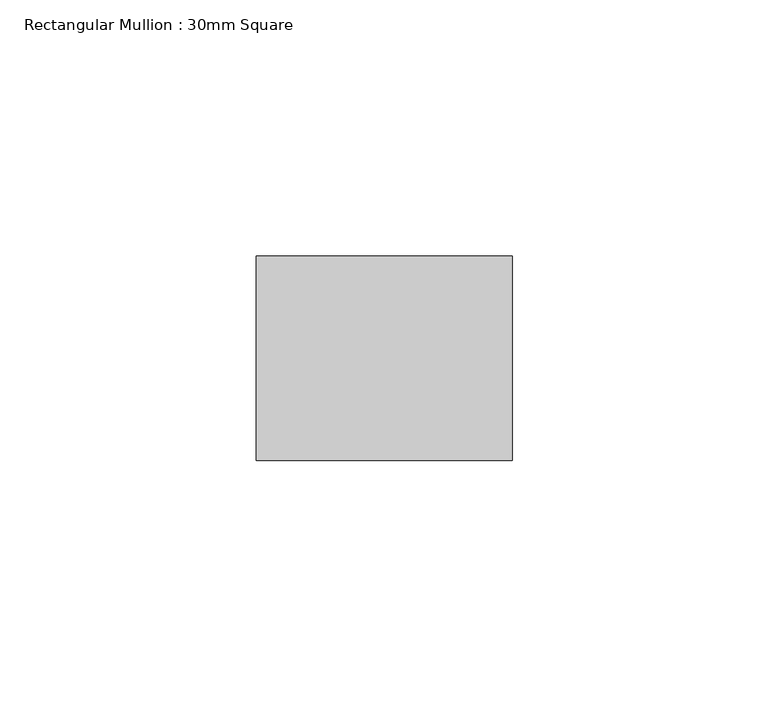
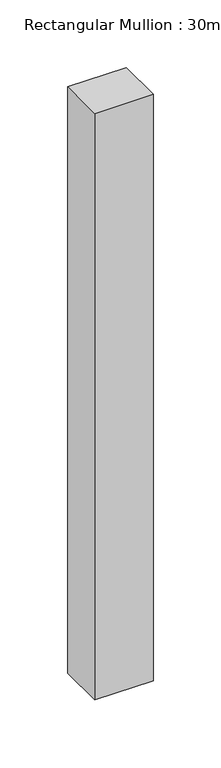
"""IFC4 building model written with IfcOpenShell, lengths in millimetres: member geometry, Rectangular Mullion : 30mm Square."""

import ifcopenshell
import ifcopenshell.guid

model = None  # the IFC model being written
_history = None  # IfcOwnerHistory: only IFC2X3 demands one
_inside = {}  # id of a spatial element -> (the spatial element, [elements in it])
_under = {}  # id of a project, library or spatial element -> (it, [spatial elements below it])
_declared = {}  # id of a project -> (the project, [libraries it declares])
_typed = {}  # id of a type object -> (the type object, [elements of that type])
_made_of = {}  # id of a material, layer set ... -> (it, [elements and type objects made of it])


def new_model(schema):
    """Start an empty IFC model of exactly this schema.

    Asked for "IFC4X3", IfcOpenShell would pick the latest addendum, in which some entities
    have other attributes; the version numbers below select the first issue.
    IFC2X3 requires an IfcOwnerHistory on every rooted entity: one is made here for all.
    """
    global model, _history
    if schema == "IFC4X3":
        model = ifcopenshell.file(schema_version=(4, 3, 0, 0))
    else:
        model = ifcopenshell.file(schema=schema)
    _inside.clear()
    _under.clear()
    _declared.clear()
    _typed.clear()
    _made_of.clear()
    _history = None
    if model.schema == "IFC2X3":
        org = make("IfcOrganization", Name="unknown")
        user = make(
            "IfcPersonAndOrganization",
            ThePerson=make("IfcPerson", FamilyName="unknown"),
            TheOrganization=org,
        )
        app = make(
            "IfcApplication",
            ApplicationDeveloper=org,
            Version="unknown",
            ApplicationFullName="unknown",
            ApplicationIdentifier="unknown",
        )
        _history = make(
            "IfcOwnerHistory",
            OwningUser=user,
            OwningApplication=app,
            ChangeAction="ADDED",
            CreationDate=0,
        )
    return model


def make(cls, **values):
    """One entity of the class cls with the attributes given. An attribute that is None is left unset."""
    return model.create_entity(
        cls, **{name: value for name, value in values.items() if value is not None}
    )


def rooted(cls, **values):
    """An entity with a GlobalId (a new one), such as an element, a storey or a relation."""
    return make(cls, GlobalId=ifcopenshell.guid.new(), OwnerHistory=_history, **values)


def si_unit(unit_type, name, prefix=None):
    """IfcSIUnit, for example si_unit("LENGTHUNIT", "METRE", prefix="MILLI")."""
    return make("IfcSIUnit", UnitType=unit_type, Prefix=prefix, Name=name)


def assignment(units):
    """IfcUnitAssignment: the units of a project."""
    return None if units is None else make("IfcUnitAssignment", Units=units)


def point(xyz):
    """IfcCartesianPoint."""
    return None if xyz is None else make("IfcCartesianPoint", Coordinates=xyz)


def direction(xyz):
    """IfcDirection."""
    return None if xyz is None else make("IfcDirection", DirectionRatios=xyz)


def frame(location, z_axis=None, x_axis=None):
    """IfcAxis2Placement3D, a coordinate frame: its origin and axes. An axis left out is left unset."""
    return make(
        "IfcAxis2Placement3D",
        Location=point(location),
        Axis=direction(z_axis),
        RefDirection=direction(x_axis),
    )


def origin():
    """The frame at (0, 0, 0) with its axes left unset."""
    return frame((0.0, 0.0, 0.0))


def place(relative_to, where):
    """IfcLocalPlacement: puts the frame where relative to a parent placement (None: the world)."""
    return make(
        "IfcLocalPlacement", PlacementRelTo=relative_to, RelativePlacement=where
    )


def context(
    kind, dimensions, precision=None, world=None, true_north=None, identifier=None
):
    """IfcGeometricRepresentationContext, for example the 3D "Model" context."""
    return make(
        "IfcGeometricRepresentationContext",
        ContextIdentifier=identifier,
        ContextType=kind,
        CoordinateSpaceDimension=dimensions,
        Precision=precision,
        WorldCoordinateSystem=world,
        TrueNorth=true_north,
    )


def project(units=None, contexts=None):
    """IfcProject with its units and contexts."""
    return rooted(
        "IfcProject",
        Name="project",
        RepresentationContexts=contexts,
        UnitsInContext=assignment(units),
    )


def spatial(cls, under=None, at=None, **own):
    """A site, building, storey or space (cls), placed at a placement, below another one or the project."""
    s = rooted(cls, ObjectPlacement=at, **own)
    if under is not None:
        _under.setdefault(under.id(), (under, []))[1].append(s)
    return s


def polyline(points):
    """IfcPolyline through the points."""
    return make("IfcPolyline", Points=[point(p) for p in points])


def outline(outer, holes=None, kind="AREA"):
    """IfcArbitraryClosedProfileDef: a profile drawn as a closed curve; with holes, ...WithVoids."""
    if holes is None:
        return make("IfcArbitraryClosedProfileDef", ProfileType=kind, OuterCurve=outer)
    return make(
        "IfcArbitraryProfileDefWithVoids",
        ProfileType=kind,
        OuterCurve=outer,
        InnerCurves=holes,
    )


def extrude(swept, where, along, depth):
    """IfcExtrudedAreaSolid: the profile swept, set in the frame where, extruded along a direction by depth."""
    return make(
        "IfcExtrudedAreaSolid",
        SweptArea=swept,
        Position=where,
        ExtrudedDirection=direction(along),
        Depth=depth,
    )


def shape(context_of_items, identifier, shape_type, items):
    """IfcShapeRepresentation: the items that make up one representation, for example the "Body"."""
    return make(
        "IfcShapeRepresentation",
        ContextOfItems=context_of_items,
        RepresentationIdentifier=identifier,
        RepresentationType=shape_type,
        Items=items,
    )


def source(mapping_origin, context_of_items, identifier, shape_type, items):
    """IfcRepresentationMap: a shape defined once, which mapped items show again and again."""
    return make(
        "IfcRepresentationMap",
        MappingOrigin=mapping_origin,
        MappedRepresentation=shape(context_of_items, identifier, shape_type, items),
    )


def transform(
    local_origin,
    x_axis=None,
    y_axis=None,
    z_axis=None,
    scale=None,
    scale2=None,
    scale3=None,
    uniform=True,
):
    """IfcCartesianTransformationOperator3D, or its non-uniform kind. x_axis, y_axis, z_axis: its Axis1, 2, 3."""
    if uniform:
        return make(
            "IfcCartesianTransformationOperator3D",
            Axis1=direction(x_axis),
            Axis2=direction(y_axis),
            LocalOrigin=point(local_origin),
            Scale=scale,
            Axis3=direction(z_axis),
        )
    return make(
        "IfcCartesianTransformationOperator3DnonUniform",
        Axis1=direction(x_axis),
        Axis2=direction(y_axis),
        LocalOrigin=point(local_origin),
        Scale=scale,
        Axis3=direction(z_axis),
        Scale2=scale2,
        Scale3=scale3,
    )


def mapped(mapping_source, mapping_target):
    """IfcMappedItem: shows the shape of a source again, moved by a transform."""
    return make(
        "IfcMappedItem", MappingSource=mapping_source, MappingTarget=mapping_target
    )


def made_of(thing, what):
    """Note that an element or type object is made of a material, layer set ...; save() writes the relation."""
    if what is not None:
        _made_of.setdefault(what.id(), (what, []))[1].append(thing)
    return thing


def element(
    cls,
    number,
    at=None,
    inside=None,
    cuts=None,
    type_object=None,
    material=None,
    context=None,
    identifier="Body",
    shape_type=None,
    held_by="IfcProductDefinitionShape",
    body=None,
    shapes=None,
    **own,
):
    """One element of the class cls, such as IfcWall. Its Tag is "e" and its number.

    at: its placement. inside: the storey or other place that contains it. cuts: it is an
    opening in that element (IfcRelVoidsElement). A single representation is given by context,
    identifier, shape_type and body (its items); several are given by shapes. held_by: the class
    of the entity that holds the representations. save() writes the other relations.
    """
    e = rooted(cls, Tag="e%d" % number, ObjectPlacement=at, **own)
    if body is not None:
        shapes = [shape(context, identifier, shape_type, body)]
    if shapes is not None:
        e.Representation = make(held_by, Representations=shapes)
    if inside is not None:
        _inside.setdefault(inside.id(), (inside, []))[1].append(e)
    if cuts is not None:
        rooted(
            "IfcRelVoidsElement", RelatingBuildingElement=cuts, RelatedOpeningElement=e
        )
    if type_object is not None:
        _typed.setdefault(type_object.id(), (type_object, []))[1].append(e)
    return made_of(e, material)


def aggregate(whole, parts):
    """IfcRelAggregates: a whole, such as a stair, and the parts it consists of."""
    return rooted("IfcRelAggregates", RelatingObject=whole, RelatedObjects=parts)


def save(model, path):
    """Write the relations noted so far, then the file.

    IfcRelAggregates (storeys below a building ...), IfcRelContainedInSpatialStructure (elements
    in a storey), IfcRelDefinesByType, IfcRelAssociatesMaterial and IfcRelDeclares: one each for
    every whole, place, type object, material and project.
    """
    for whole, parts in _under.values():
        aggregate(whole, parts)
    for where, things in _inside.values():
        rooted(
            "IfcRelContainedInSpatialStructure",
            RelatedElements=things,
            RelatingStructure=where,
        )
    for kind, things in _typed.values():
        rooted("IfcRelDefinesByType", RelatedObjects=things, RelatingType=kind)
    for what, things in _made_of.values():
        rooted("IfcRelAssociatesMaterial", RelatedObjects=things, RelatingMaterial=what)
    for by, libraries in _declared.values():
        rooted("IfcRelDeclares", RelatingContext=by, RelatedDefinitions=libraries)
    model.write(path)


def rectangular_mullion_30mm_square_d153da73(model_context):
    return source(origin(), model_context, "Body", "SweptSolid", [
        extrude(outline(polyline([(25.0, 20.0), (25.0, -20.0), (-25.0, -20.0), (-25.0, 20.0), (25.0, 20.0)])), frame((0.0, 0.0, -530.0), z_axis=(0.0, 0.0, 1.0), x_axis=(1.0, 0.0, 0.0)), (0.0, 0.0, 1.0), 530.0),
    ])


if __name__ == "__main__":
    model = new_model("IFC4")
    model_context = context("Model", 3, world=origin())
    ifc_project = project(units=[si_unit("LENGTHUNIT", "METRE", prefix="MILLI")], contexts=[model_context])
    site = spatial("IfcSite", under=ifc_project)
    building = spatial("IfcBuilding", under=site)
    placement = place(None, origin())
    rectangular_mullion_30mm_square_shape = rectangular_mullion_30mm_square_d153da73(model_context)
    element("IfcMember", 1, ObjectType="Rectangular Mullion : 30mm Square", at=placement, inside=building, context=model_context, shape_type="MappedRepresentation", body=[
        mapped(rectangular_mullion_30mm_square_shape, transform((0.0, 0.0, 0.0), x_axis=(1.0, 0.0, 0.0), y_axis=(0.0, 1.0, 0.0), z_axis=(0.0, 0.0, 1.0))),
    ])
    save(model, "model.ifc")
